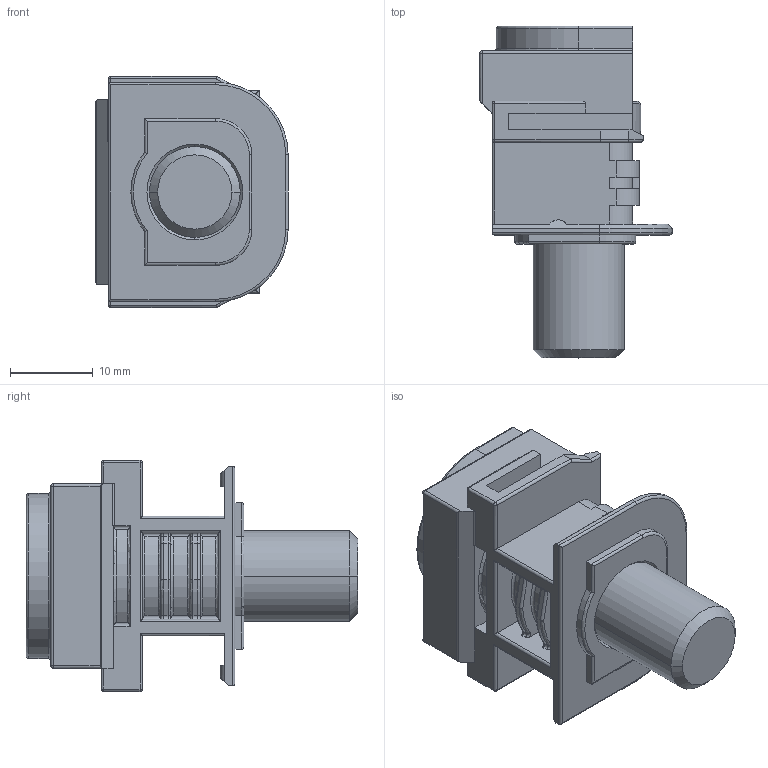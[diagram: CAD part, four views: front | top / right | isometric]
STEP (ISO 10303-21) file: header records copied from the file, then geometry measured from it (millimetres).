
FILE_DESCRIPTION(/* description */ (''),/* implementation_level */ '2;1');
FILE_NAME(/* name */ 'PCMALE25GP-G.stp',/* time_stamp */ '2020-06-18T08:20:25+09:00',/* author */ (''),/* organization */ (''),/* preprocessor_version */ 'ST-DEVELOPER v16',/* originating_system */ 'SIEMENS PLM Software NX 11.0',/* authorisation */ '');
FILE_SCHEMA (('AP203_CONFIGURATION_CONTROLLED_3D_DESIGN_OF_MECHANICAL_PARTS_AND_ASSEMBLIES_MIM_LF { 1 0 10303 403 2 1 2}'));
Length unit declared in the file: millimetre
Products named in the file (1): PCMALE25GP-G
Bounding box: 23.3 x 40.2 x 28 mm (x, y, z)
Volume: 6928.9 mm3; surface area: 5625.1 mm2
Topology: 1 solids, 1 shells, 252 faces, 641 edges, 394 vertices
Faces by surface type: plane 109, cylinder 92, torus 31, cone 14, sphere 6
Entity records: 8092 total; most frequent: CARTESIAN_POINT 1870, DIRECTION 1308, ORIENTED_EDGE 1278, EDGE_CURVE 639, AXIS2_PLACEMENT_3D 460, VERTEX_POINT 394, LINE 388, VECTOR 388
